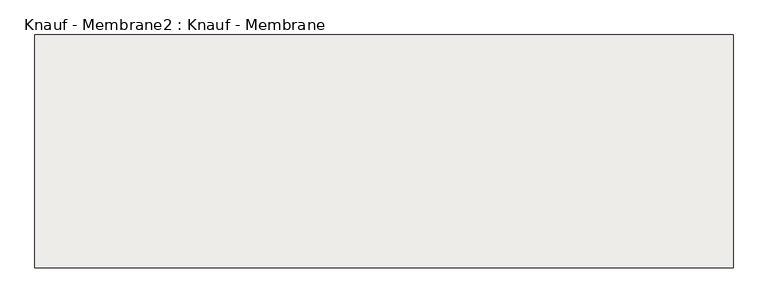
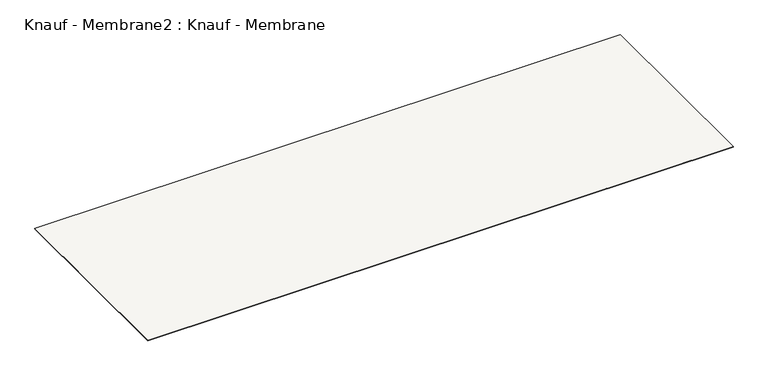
"""IFC4 building model written with IfcOpenShell, lengths in millimetres: slab geometry, Knauf - Membrane2 : Knauf - Membrane."""

from ifc_helpers import new_model, si_unit, frame, origin, place, context, project, spatial, polyline, outline, extrude, source, transform, mapped, element, save


def knauf_membrane2_knauf_membrane_dd45de31(model_context):
    return source(origin(), model_context, "Body", "SweptSolid", [
        extrude(outline(polyline([(20416.285179, 16676.9464372), (20416.285179, 16176.9464372), (18916.285179, 16176.9464372), (18916.285179, 16676.9464372), (20416.285179, 16676.9464372)])), frame((0.0, 0.0, 1.0), z_axis=(0.0, 0.0, 1.0), x_axis=(1.0, 0.0, 0.0)), (0.0, 0.0, 1.0), 1.0),
    ])


if __name__ == "__main__":
    model = new_model("IFC4")
    model_context = context("Model", 3, world=origin())
    ifc_project = project(units=[si_unit("LENGTHUNIT", "METRE", prefix="MILLI")], contexts=[model_context])
    site = spatial("IfcSite", under=ifc_project)
    building = spatial("IfcBuilding", under=site)
    placement = place(None, origin())
    knauf_membrane2_knauf_membrane_shape = knauf_membrane2_knauf_membrane_dd45de31(model_context)
    element("IfcSlab", 1, ObjectType="Knauf - Membrane2 : Knauf - Membrane", at=placement, inside=building, context=model_context, shape_type="MappedRepresentation", body=[
        mapped(knauf_membrane2_knauf_membrane_shape, transform((0.0, 0.0, 0.0), x_axis=(1.0, 0.0, 0.0), y_axis=(0.0, 1.0, 0.0), z_axis=(0.0, 0.0, 1.0))),
    ])
    save(model, "model.ifc")
